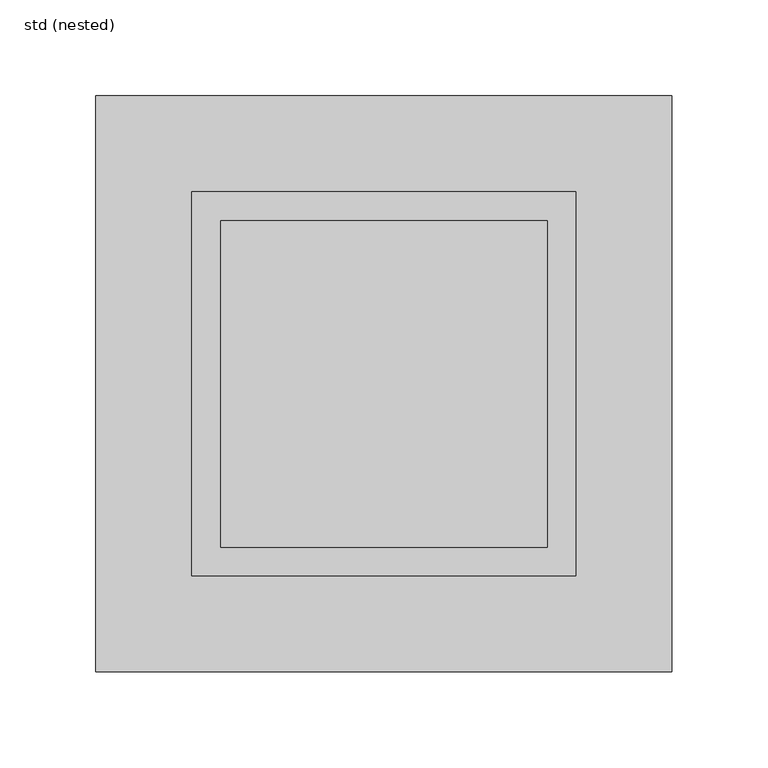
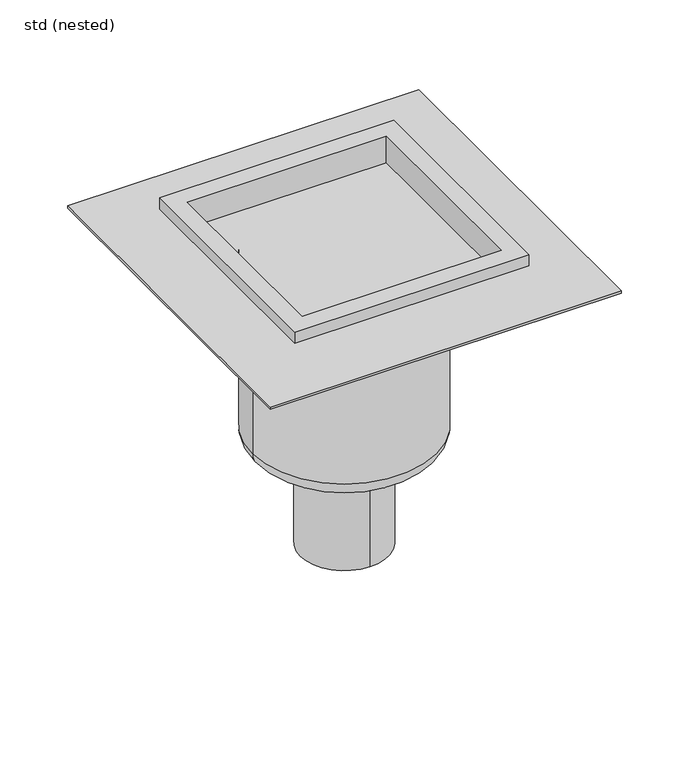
"""IFC4 building model written with IfcOpenShell, lengths in millimetres: sanitary terminal geometry, ZZZ_do not use_PF_ST_UN_fixed height hygienic gully_ACO : std (nested)."""

from ifc_helpers import new_model, si_unit, point, frame, origin, place, context, project, spatial, circle_curve, ellipse_curve, trimmed, source, transform, mapped, element, save
from ifc_brep_helpers import plane_surface, cylinder_surface, revolved_surface, advanced_brep


def std_nested_ff023d64(model_context):
    return source(origin(), model_context, "Body", "AdvancedBrep", [
        advanced_brep(
        [(78.5, 0.0, -178.0), (-78.5, 0.0, -178.0), (-78.5, 0.0, -25.0), (78.5, 0.0, -25.0), (63.5, 0.0, -193.0), (-63.5, 0.0, -193.0), (37.5, 0.0, -193.0), (0.0, 37.5, -193.0), (-37.5, 0.0, -193.0), (0.0, -37.5, -193.0), (0.0, -37.5, -285.0), (0.0, 37.5, -285.0), (150.0, 150.0, -22.0), (150.0, -150.0, -22.0), (-150.0, -150.0, -22.0), (-150.0, 150.0, -22.0), (86.25, 86.25, -22.0), (-86.25, 86.25, -22.0), (-86.25, -86.25, -22.0), (86.25, -86.25, -22.0), (150.0, 150.0, -20.0), (-150.0, 150.0, -20.0), (-150.0, -150.0, -20.0), (150.0, -150.0, -20.0), (-86.25, 86.25, -20.0), (86.25, 86.25, -20.0), (86.25, -86.25, -20.0), (-86.25, -86.25, -20.0), (100.0, 100.0, -10.0), (100.0, -100.0, -10.0), (-100.0, -100.0, -10.0), (-100.0, 100.0, -10.0), (86.25, 86.25, -10.0), (-86.25, 86.25, -10.0), (-86.25, -86.25, -10.0), (86.25, -86.25, -10.0), (100.0, 100.0, 0.0), (-100.0, 100.0, 0.0), (-100.0, -100.0, 0.0), (100.0, -100.0, 0.0), (85.0, 85.0, 0.0), (85.0, -85.0, 0.0), (-85.0, -85.0, 0.0), (-85.0, 85.0, 0.0), (85.0, 85.0, -23.75), (85.0, -85.0, -23.75), (-85.0, -85.0, -23.75), (-85.0, 85.0, -23.75), (86.25, 86.25, -25.0), (86.25, -86.25, -25.0), (-86.25, -86.25, -25.0), (-86.25, 86.25, -25.0), (-86.25, 86.25, -23.75), (86.25, 86.25, -23.75), (-86.25, -86.25, -23.75), (86.25, -86.25, -23.75)],
        [
            (0, 1, circle_curve(frame((0.0, 0.0, -178.0), z_axis=(0.0, 0.0, 1.0), x_axis=(-1.0, 0.0, 0.0)), 78.5)),
            (1, 2),
            (2, 3, circle_curve(frame((0.0, 0.0, -25.0), z_axis=(0.0, 0.0, -1.0), x_axis=(-1.0, 0.0, 0.0)), 78.5)),
            (3, 0),
            (1, 0, circle_curve(frame((0.0, 0.0, -178.0), z_axis=(0.0, 0.0, 1.0), x_axis=(-1.0, 0.0, 0.0)), 78.5)),
            (3, 2, circle_curve(frame((0.0, 0.0, -25.0), z_axis=(0.0, 0.0, -1.0), x_axis=(-1.0, 0.0, 0.0)), 78.5)),
            (0, 4, circle_curve(frame((63.5, 0.0, -178.0), z_axis=(0.0, 1.0, 0.0), x_axis=(-1.0, 0.0, 0.0)), 15.0)),
            (4, 5, circle_curve(frame((0.0, 0.0, -193.0), z_axis=(0.0, 0.0, 1.0), x_axis=(-1.0, 0.0, 0.0)), 63.5)),
            (5, 1, circle_curve(frame((-63.5, 0.0, -178.0), z_axis=(0.0, 1.0, 0.0), x_axis=(1.0, 0.0, 0.0)), 15.0)),
            (5, 4, circle_curve(frame((0.0, 0.0, -193.0), z_axis=(0.0, 0.0, 1.0), x_axis=(-1.0, 0.0, 0.0)), 63.5)),
            (4, 6),
            (6, 7, circle_curve(frame((0.0, 0.0, -193.0), z_axis=(0.0, 0.0, 1.0), x_axis=(0.0, 1.0, 0.0)), 37.5)),
            (7, 8, circle_curve(frame((0.0, 0.0, -193.0), z_axis=(0.0, 0.0, 1.0), x_axis=(0.0, 1.0, 0.0)), 37.5)),
            (8, 5),
            (8, 9, circle_curve(frame((0.0, 0.0, -193.0), z_axis=(0.0, 0.0, 1.0), x_axis=(0.0, 1.0, 0.0)), 37.5)),
            (9, 6, circle_curve(frame((0.0, 0.0, -193.0), z_axis=(0.0, 0.0, 1.0), x_axis=(0.0, 1.0, 0.0)), 37.5)),
            (10, 11, circle_curve(frame((0.0, 0.0, -285.0), z_axis=(0.0, 0.0, -1.0), x_axis=(0.0, 1.0, 0.0)), 37.5)),
            (11, 10, circle_curve(frame((0.0, 0.0, -285.0), z_axis=(0.0, 0.0, -1.0), x_axis=(0.0, 1.0, 0.0)), 37.5)),
            (10, 9),
            (7, 11),
            (12, 13),
            (13, 14),
            (14, 15),
            (15, 12),
            (16, 17),
            (17, 18),
            (18, 19),
            (19, 16),
            (20, 21),
            (21, 22),
            (22, 23),
            (23, 20),
            (24, 25),
            (25, 26),
            (26, 27),
            (27, 24),
            (15, 21),
            (20, 12),
            (14, 22),
            (13, 23),
            (28, 29),
            (29, 30),
            (30, 31),
            (31, 28),
            (32, 33),
            (33, 34),
            (34, 35),
            (35, 32),
            (36, 37),
            (37, 38),
            (38, 39),
            (39, 36),
            (40, 41),
            (41, 42),
            (42, 43),
            (43, 40),
            (31, 37),
            (36, 28),
            (30, 38),
            (29, 39),
            (40, 44),
            (44, 45),
            (45, 41),
            (45, 46),
            (46, 42),
            (46, 47),
            (47, 43),
            (47, 44),
            (48, 49),
            (49, 50),
            (50, 51),
            (51, 48),
            (51, 52),
            (52, 17),
            (16, 53),
            (53, 48),
            (32, 25),
            (24, 33),
            (50, 54),
            (54, 18),
            (27, 34),
            (49, 55),
            (55, 19),
            (26, 35),
        ],
        [
            cylinder_surface(frame((0.0, 0.0, 60.0), z_axis=(0.0, 0.0, -1.0), x_axis=(-1.0, 0.0, 0.0)), 78.5),
            revolved_surface(trimmed(ellipse_curve(frame((-63.5, 0.0, -178.0), z_axis=(0.0, -1.0, 0.0), x_axis=(1.0, 0.0, 0.0)), 15.0, 15.0), [point((-78.5, 0.0, -178.0))], [point((-63.5, 0.0, -193.0))], True, "CARTESIAN"), (0.0, 0.0, 60.0), (0.0, 0.0, -1.0)),
            plane_surface(frame((0.0, 0.0, -193.0), z_axis=(0.0, 0.0, -1.0), x_axis=(-1.0, 0.0, 0.0))),
            plane_surface(frame((0.0, 37.5, -285.0), z_axis=(0.0, 0.0, -1.0), x_axis=(1.0, 0.0, 0.0))),
            cylinder_surface(frame((0.0, 0.0, -193.0), z_axis=(0.0, 0.0, -1.0), x_axis=(0.0, 1.0, 0.0)), 37.5),
            plane_surface(frame((86.25, 86.25, -22.0), z_axis=(0.0, 0.0, -1.0), x_axis=(0.0, 1.0, 0.0))),
            plane_surface(frame((86.25, 86.25, -20.0), z_axis=(0.0, 0.0, 1.0), x_axis=(0.0, -1.0, 0.0))),
            plane_surface(frame((150.0, 150.0, -20.0), z_axis=(0.0, 1.0, 0.0), x_axis=(0.0, 0.0, -1.0))),
            plane_surface(frame((-150.0, 150.0, -20.0), z_axis=(-1.0, 0.0, 0.0), x_axis=(0.0, 0.0, -1.0))),
            plane_surface(frame((-150.0, -150.0, -20.0), z_axis=(0.0, -1.0, 0.0), x_axis=(0.0, 0.0, -1.0))),
            plane_surface(frame((150.0, -150.0, -20.0), z_axis=(1.0, 0.0, 0.0), x_axis=(0.0, 0.0, -1.0))),
            plane_surface(frame((-100.0, 100.0, -10.0), z_axis=(0.0, 0.0, -1.0), x_axis=(1.0, 0.0, 0.0))),
            plane_surface(frame((-100.0, 100.0, 0.0), z_axis=(0.0, 0.0, 1.0), x_axis=(-1.0, 0.0, 0.0))),
            plane_surface(frame((100.0, 100.0, 0.0), z_axis=(0.0, 1.0, 0.0), x_axis=(0.0, 0.0, -1.0))),
            plane_surface(frame((-100.0, 100.0, 0.0), z_axis=(-1.0, 0.0, 0.0), x_axis=(0.0, 0.0, -1.0))),
            plane_surface(frame((-100.0, -100.0, 0.0), z_axis=(0.0, -1.0, 0.0), x_axis=(0.0, 0.0, -1.0))),
            plane_surface(frame((100.0, -100.0, 0.0), z_axis=(1.0, 0.0, 0.0), x_axis=(0.0, 0.0, -1.0))),
            plane_surface(frame((85.0, 85.0, 0.0), z_axis=(-1.0, 0.0, 0.0), x_axis=(0.0, 0.0, -1.0))),
            plane_surface(frame((85.0, -85.0, 0.0), z_axis=(0.0, 1.0, 0.0), x_axis=(0.0, 0.0, -1.0))),
            plane_surface(frame((-85.0, -85.0, 0.0), z_axis=(1.0, 0.0, 0.0), x_axis=(0.0, 0.0, -1.0))),
            plane_surface(frame((-85.0, 85.0, 0.0), z_axis=(0.0, -1.0, 0.0), x_axis=(0.0, 0.0, -1.0))),
            plane_surface(frame((-86.25, 86.25, -25.0), z_axis=(0.0, 0.0, -1.0), x_axis=(1.0, 0.0, 0.0))),
            plane_surface(frame((86.25, 86.25, -10.0), z_axis=(0.0, 1.0, 0.0), x_axis=(0.0, 0.0, -1.0))),
            plane_surface(frame((-86.25, 86.25, -10.0), z_axis=(-1.0, 0.0, 0.0), x_axis=(0.0, 0.0, -1.0))),
            plane_surface(frame((-86.25, -86.25, -10.0), z_axis=(0.0, -1.0, 0.0), x_axis=(0.0, 0.0, -1.0))),
            plane_surface(frame((86.25, -86.25, -10.0), z_axis=(1.0, 0.0, 0.0), x_axis=(0.0, 0.0, -1.0))),
            plane_surface(frame((-86.25, 86.25, -23.75), z_axis=(0.0, 0.0, 1.0), x_axis=(-1.0, 0.0, 0.0))),
        ],
        [
            (0, [[1, 2, 3, 4]]),
            (0, [[-2, 5, -4, 6]]),
            (1, [[-1, 7, 8, 9]]),
            (1, [[-5, -9, 10, -7]]),
            (2, [[-8, 11, 12, 13, 14]]),
            (2, [[-10, -14, 15, 16, -11]]),
            (3, [[17, 18]]),
            (4, [[-17, 19, -15, -13, 20]]),
            (4, [[-18, -20, -12, -16, -19]]),
            (5, [[21, 22, 23, 24], [25, 26, 27, 28]]),
            (6, [[29, 30, 31, 32], [33, 34, 35, 36]]),
            (7, [[-24, 37, -29, 38]]),
            (8, [[-23, 39, -30, -37]]),
            (9, [[-22, 40, -31, -39]]),
            (10, [[-21, -38, -32, -40]]),
            (11, [[41, 42, 43, 44], [45, 46, 47, 48]]),
            (12, [[49, 50, 51, 52], [53, 54, 55, 56]]),
            (13, [[-44, 57, -49, 58]]),
            (14, [[-43, 59, -50, -57]]),
            (15, [[-42, 60, -51, -59]]),
            (16, [[-41, -58, -52, -60]]),
            (17, [[-53, 61, 62, 63]]),
            (18, [[-54, -63, 64, 65]]),
            (19, [[-55, -65, 66, 67]]),
            (20, [[-56, -67, 68, -61]]),
            (21, [[69, 70, 71, 72], [-3, -6]]),
            (22, [[-72, 73, 74, -25, 75, 76]]),
            (22, [[77, -33, 78, -45]]),
            (23, [[-71, 79, 80, -26, -74, -73]]),
            (23, [[81, -46, -78, -36]]),
            (24, [[-70, 82, 83, -27, -80, -79]]),
            (24, [[84, -47, -81, -35]]),
            (25, [[-69, -76, -75, -28, -83, -82]]),
            (25, [[-77, -48, -84, -34]]),
            (26, [[-62, -68, -66, -64]]),
        ],
    ),
    ])


if __name__ == "__main__":
    model = new_model("IFC4")
    model_context = context("Model", 3, world=origin())
    ifc_project = project(units=[si_unit("LENGTHUNIT", "METRE", prefix="MILLI")], contexts=[model_context])
    site = spatial("IfcSite", under=ifc_project)
    building = spatial("IfcBuilding", under=site)
    placement = place(None, origin())
    std_nested_shape = std_nested_ff023d64(model_context)
    element("IfcSanitaryTerminal", 1, ObjectType="ZZZ_do not use_PF_ST_UN_fixed height hygienic gully_ACO : std (nested)", at=placement, inside=building, context=model_context, shape_type="MappedRepresentation", body=[
        mapped(std_nested_shape, transform((0.0, 0.0, 0.0), x_axis=(1.0, 0.0, 0.0), y_axis=(0.0, 1.0, 0.0), z_axis=(0.0, 0.0, 1.0))),
    ])
    save(model, "model.ifc")
